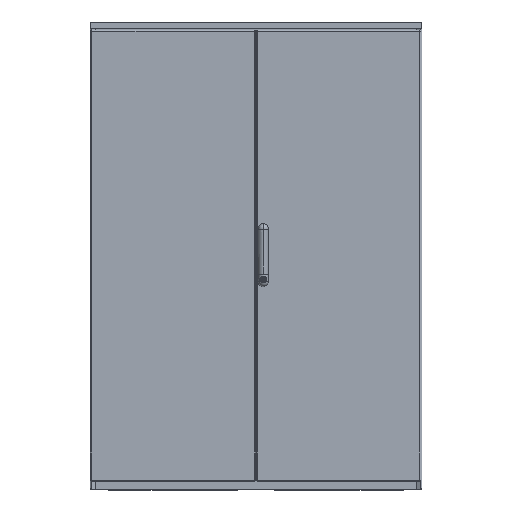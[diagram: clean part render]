
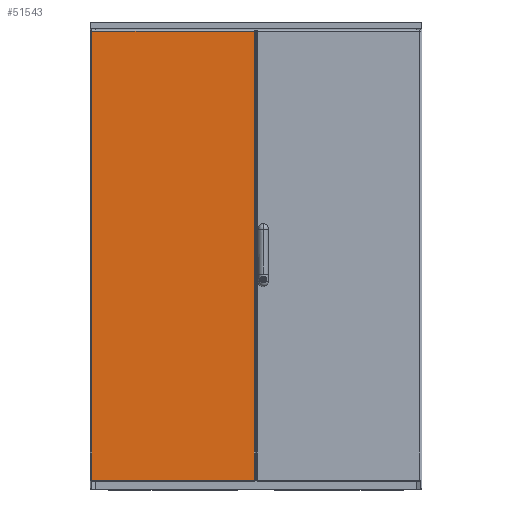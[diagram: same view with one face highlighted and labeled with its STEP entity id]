
A CAD part, front view. The second image highlights one B-rep face of the part: STEP entity #51543.
In plain terms, the highlighted planar face has unit normal (0, -1, 0) as drawn and (0, 0, 1) by its records, which use the part's own axes.
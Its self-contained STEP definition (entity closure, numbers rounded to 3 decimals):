
#990 = CARTESIAN_POINT ( 'NONE',  ( 0., 1357., 19. ) ) ;
#5128 = DIRECTION ( 'NONE',  ( 0., -1., 0. ) ) ;
#7754 = VECTOR ( 'NONE', #28890, 1000. ) ;
#8406 = ORIENTED_EDGE ( 'NONE', *, *, #12288, .T. ) ;
#8868 = VERTEX_POINT ( 'NONE', #10147 ) ;
#9606 = VERTEX_POINT ( 'NONE', #13338 ) ;
#10147 = CARTESIAN_POINT ( 'NONE',  ( 2.001, 3., 19. ) ) ;
#10421 = LINE ( 'NONE', #990, #7754 ) ;
#11098 = PLANE ( 'NONE',  #40462 ) ;
#12288 = EDGE_CURVE ( 'NONE', #8868, #54610, #50438, .T. ) ;
#13338 = CARTESIAN_POINT ( 'NONE',  ( 492., 1357., 19. ) ) ;
#16519 = DIRECTION ( 'NONE',  ( -1., 0., 0. ) ) ;
#21082 = DIRECTION ( 'NONE',  ( 0., 0., -1. ) ) ;
#22736 = CARTESIAN_POINT ( 'NONE',  ( 2.001, 1357., 19. ) ) ;
#23368 = VECTOR ( 'NONE', #53795, 1000. ) ;
#25628 = FACE_OUTER_BOUND ( 'NONE', #46916, .T. ) ;
#27551 = VERTEX_POINT ( 'NONE', #22736 ) ;
#28890 = DIRECTION ( 'NONE',  ( -1., 0., 0. ) ) ;
#29594 = CARTESIAN_POINT ( 'NONE',  ( 492., 3., 19. ) ) ;
#32252 = DIRECTION ( 'NONE',  ( 0., 1., 0. ) ) ;
#32924 = VECTOR ( 'NONE', #32252, 1000. ) ;
#33609 = EDGE_CURVE ( 'NONE', #27551, #8868, #50880, .T. ) ;
#40462 = AXIS2_PLACEMENT_3D ( 'NONE', #57985, #21082, #16519 ) ;
#44710 = VECTOR ( 'NONE', #5128, 1000. ) ;
#46640 = CARTESIAN_POINT ( 'NONE',  ( 2.001, 3., 19. ) ) ;
#46916 = EDGE_LOOP ( 'NONE', ( #55438, #52553, #8406, #56668 ) ) ;
#50438 = LINE ( 'NONE', #58333, #23368 ) ;
#50880 = LINE ( 'NONE', #46640, #44710 ) ;
#51543 = ADVANCED_FACE ( 'NONE', ( #25628 ), #11098, .F. ) ;
#51876 = EDGE_CURVE ( 'NONE', #9606, #27551, #10421, .T. ) ;
#51882 = EDGE_CURVE ( 'NONE', #54610, #9606, #55559, .T. ) ;
#52553 = ORIENTED_EDGE ( 'NONE', *, *, #33609, .T. ) ;
#53795 = DIRECTION ( 'NONE',  ( 1., 0., 0. ) ) ;
#54610 = VERTEX_POINT ( 'NONE', #29594 ) ;
#55245 = CARTESIAN_POINT ( 'NONE',  ( 492., 1360., 19. ) ) ;
#55438 = ORIENTED_EDGE ( 'NONE', *, *, #51876, .T. ) ;
#55559 = LINE ( 'NONE', #55245, #32924 ) ;
#56668 = ORIENTED_EDGE ( 'NONE', *, *, #51882, .T. ) ;
#57985 = CARTESIAN_POINT ( 'NONE',  ( 0., 1360., 19. ) ) ;
#58333 = CARTESIAN_POINT ( 'NONE',  ( 0., 3., 19. ) ) ;
